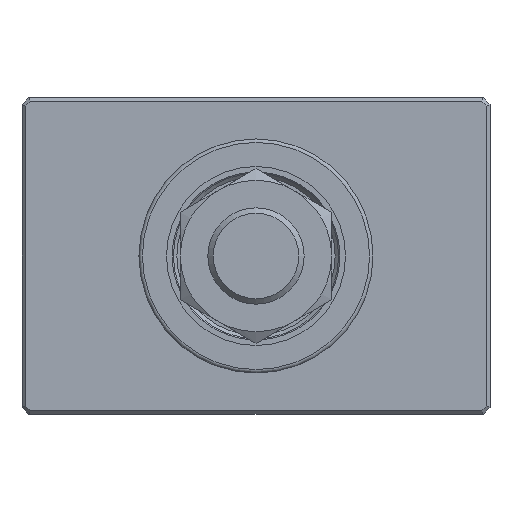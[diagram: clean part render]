
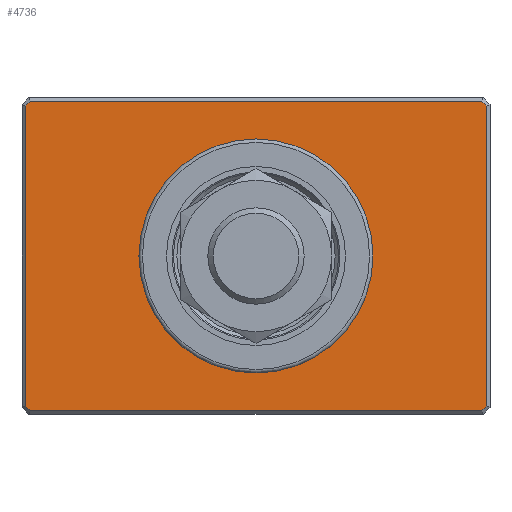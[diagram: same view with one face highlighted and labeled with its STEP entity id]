
A CAD part, front view. The second image highlights one B-rep face of the part: STEP entity #4736.
In plain terms, the highlighted planar face has unit normal (0, -1, 0).
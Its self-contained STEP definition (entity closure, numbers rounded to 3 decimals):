
#3791=CARTESIAN_POINT('',(0.0,-21.,17.0));
#3792=VERTEX_POINT('',#3791);
#3793=CARTESIAN_POINT('',(0.0,-21.,0.0));
#3794=DIRECTION('',(0.0,1.0,0.0));
#3795=DIRECTION('',(0.0,0.0,1.0));
#3796=AXIS2_PLACEMENT_3D('',#3793,#3794,#3795);
#3797=CIRCLE('',#3796,17.0);
#3798=EDGE_CURVE('',#3792,#3792,#3797,.T.);
#4662=CARTESIAN_POINT('',(0.0,-21.,-23.));
#4663=DIRECTION('',(0.0,-1.0,0.0));
#4664=DIRECTION('',(0.0,0.0,-1.0));
#4665=AXIS2_PLACEMENT_3D('',#4662,#4663,#4664);
#4666=PLANE('',#4665);
#4667=CARTESIAN_POINT('',(-32.793,-21.,-22.5));
#4668=VERTEX_POINT('',#4667);
#4669=CARTESIAN_POINT('',(-33.5,-21.,-21.793));
#4670=VERTEX_POINT('',#4669);
#4671=CARTESIAN_POINT('',(-32.793,-21.,-22.5));
#4672=DIRECTION('',(-0.707,0.0,0.707));
#4673=VECTOR('',#4672,1.);
#4674=LINE('',#4671,#4673);
#4675=EDGE_CURVE('',#4668,#4670,#4674,.T.);
#4676=ORIENTED_EDGE('',*,*,#4675,.F.);
#4677=CARTESIAN_POINT('',(32.793,-21.,-22.5));
#4678=VERTEX_POINT('',#4677);
#4679=CARTESIAN_POINT('',(32.793,-21.,-22.5));
#4680=DIRECTION('',(-1.0,0.0,0.0));
#4681=VECTOR('',#4680,65.586);
#4682=LINE('',#4679,#4681);
#4683=EDGE_CURVE('',#4678,#4668,#4682,.T.);
#4684=ORIENTED_EDGE('',*,*,#4683,.F.);
#4685=CARTESIAN_POINT('',(33.5,-21.,-21.793));
#4686=VERTEX_POINT('',#4685);
#4687=CARTESIAN_POINT('',(33.5,-21.,-21.793));
#4688=DIRECTION('',(-0.707,0.0,-0.707));
#4689=VECTOR('',#4688,1.);
#4690=LINE('',#4687,#4689);
#4691=EDGE_CURVE('',#4686,#4678,#4690,.T.);
#4692=ORIENTED_EDGE('',*,*,#4691,.F.);
#4693=CARTESIAN_POINT('',(33.5,-21.,21.793));
#4694=VERTEX_POINT('',#4693);
#4695=CARTESIAN_POINT('',(33.5,-21.,21.793));
#4696=DIRECTION('',(0.0,0.0,-1.0));
#4697=VECTOR('',#4696,43.586);
#4698=LINE('',#4695,#4697);
#4699=EDGE_CURVE('',#4694,#4686,#4698,.T.);
#4700=ORIENTED_EDGE('',*,*,#4699,.F.);
#4701=CARTESIAN_POINT('',(32.793,-21.,22.5));
#4702=VERTEX_POINT('',#4701);
#4703=CARTESIAN_POINT('',(32.793,-21.,22.5));
#4704=DIRECTION('',(0.707,0.0,-0.707));
#4705=VECTOR('',#4704,1.);
#4706=LINE('',#4703,#4705);
#4707=EDGE_CURVE('',#4702,#4694,#4706,.T.);
#4708=ORIENTED_EDGE('',*,*,#4707,.F.);
#4709=CARTESIAN_POINT('',(-32.793,-21.,22.5));
#4710=VERTEX_POINT('',#4709);
#4711=CARTESIAN_POINT('',(-32.793,-21.,22.5));
#4712=DIRECTION('',(1.0,0.0,0.0));
#4713=VECTOR('',#4712,65.586);
#4714=LINE('',#4711,#4713);
#4715=EDGE_CURVE('',#4710,#4702,#4714,.T.);
#4716=ORIENTED_EDGE('',*,*,#4715,.F.);
#4717=CARTESIAN_POINT('',(-33.5,-21.,21.793));
#4718=VERTEX_POINT('',#4717);
#4719=CARTESIAN_POINT('',(-33.5,-21.,21.793));
#4720=DIRECTION('',(0.707,0.0,0.707));
#4721=VECTOR('',#4720,1.);
#4722=LINE('',#4719,#4721);
#4723=EDGE_CURVE('',#4718,#4710,#4722,.T.);
#4724=ORIENTED_EDGE('',*,*,#4723,.F.);
#4725=CARTESIAN_POINT('',(-33.5,-21.,-21.793));
#4726=DIRECTION('',(0.0,0.0,1.0));
#4727=VECTOR('',#4726,43.586);
#4728=LINE('',#4725,#4727);
#4729=EDGE_CURVE('',#4670,#4718,#4728,.T.);
#4730=ORIENTED_EDGE('',*,*,#4729,.F.);
#4731=EDGE_LOOP('',(#4676,#4684,#4692,#4700,#4708,#4716,#4724,#4730));
#4732=FACE_OUTER_BOUND('',#4731,.T.);
#4733=ORIENTED_EDGE('',*,*,#3798,.T.);
#4734=EDGE_LOOP('',(#4733));
#4735=FACE_BOUND('',#4734,.T.);
#4736=ADVANCED_FACE('',(#4732,#4735),#4666,.T.);
